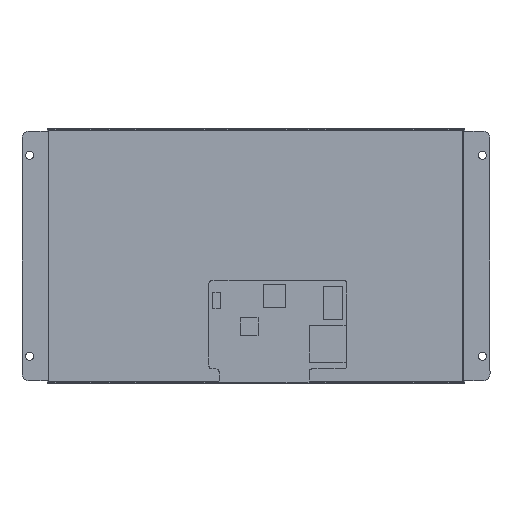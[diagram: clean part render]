
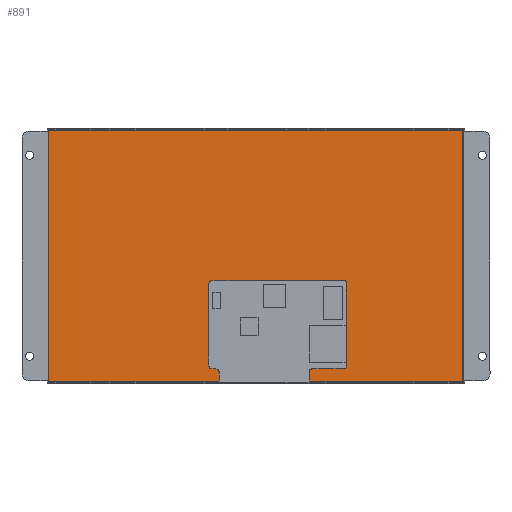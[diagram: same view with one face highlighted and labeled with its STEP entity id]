
A CAD part, top view. The second image highlights one B-rep face of the part: STEP entity #891.
In plain terms, the highlighted planar face has unit normal (0, 0, 1).
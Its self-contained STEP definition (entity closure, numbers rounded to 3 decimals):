
#891=ADVANCED_FACE('',(#1218),#1039,.F.);
#1039=PLANE('',#4313);
#1218=FACE_OUTER_BOUND('',#1431,.T.);
#1431=EDGE_LOOP('',(#2360,#2361,#2362,#2363));
#2360=ORIENTED_EDGE('',*,*,#3279,.T.);
#2361=ORIENTED_EDGE('',*,*,#3283,.T.);
#2362=ORIENTED_EDGE('',*,*,#3286,.T.);
#2363=ORIENTED_EDGE('',*,*,#3289,.T.);
#2790=VERTEX_POINT('',#6634);
#2791=VERTEX_POINT('',#6635);
#2794=VERTEX_POINT('',#6643);
#2796=VERTEX_POINT('',#6649);
#3279=EDGE_CURVE('',#2790,#2791,#3634,.T.);
#3283=EDGE_CURVE('',#2791,#2794,#3638,.T.);
#3286=EDGE_CURVE('',#2794,#2796,#3641,.T.);
#3289=EDGE_CURVE('',#2796,#2790,#3644,.T.);
#3634=LINE('',#6633,#3991);
#3638=LINE('',#6642,#3995);
#3641=LINE('',#6648,#3998);
#3644=LINE('',#6654,#4001);
#3991=VECTOR('',#5103,1.);
#3995=VECTOR('',#5109,1.);
#3998=VECTOR('',#5114,1.);
#4001=VECTOR('',#5119,1.);
#4313=AXIS2_PLACEMENT_3D('',#6658,#5125,#5126);
#5103=DIRECTION('',(-1.,0.,0.));
#5109=DIRECTION('',(0.,-1.,0.));
#5114=DIRECTION('',(1.,0.,0.));
#5119=DIRECTION('',(0.,1.,0.));
#5125=DIRECTION('',(0.,0.,-1.));
#5126=DIRECTION('',(1.,0.,0.));
#6633=CARTESIAN_POINT('',(480.268,58.563,-2.2));
#6634=CARTESIAN_POINT('',(562.698,58.563,-2.2));
#6635=CARTESIAN_POINT('',(397.838,58.563,-2.2));
#6642=CARTESIAN_POINT('',(397.838,8.583,-2.2));
#6643=CARTESIAN_POINT('',(397.838,-41.397,-2.2));
#6648=CARTESIAN_POINT('',(480.268,-41.397,-2.2));
#6649=CARTESIAN_POINT('',(562.698,-41.397,-2.2));
#6654=CARTESIAN_POINT('',(562.698,8.583,-2.2));
#6658=CARTESIAN_POINT('',(480.268,58.563,-2.2));
